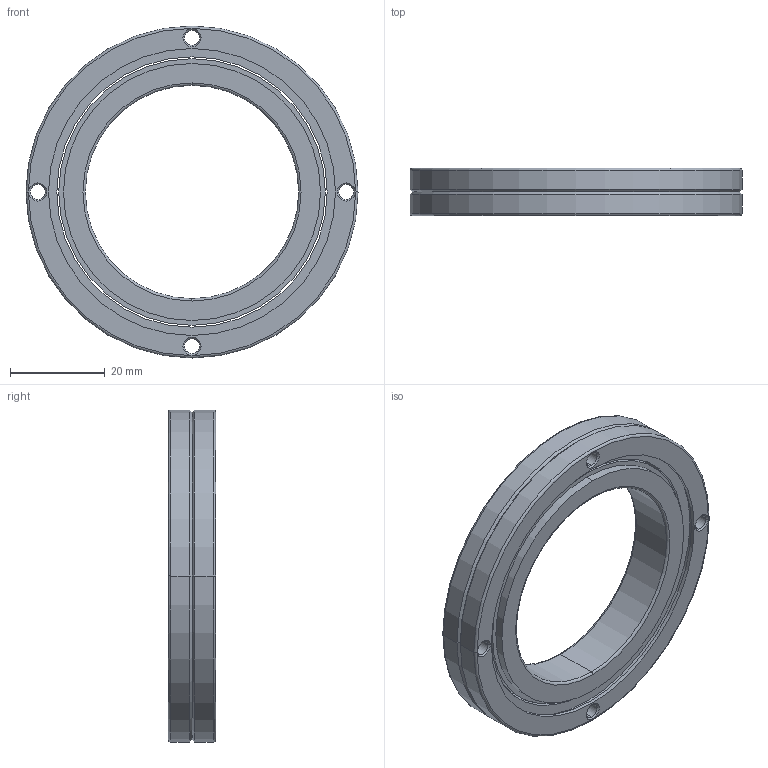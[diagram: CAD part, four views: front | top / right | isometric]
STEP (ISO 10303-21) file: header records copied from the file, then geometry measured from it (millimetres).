
FILE_DESCRIPTION((''),'2;1');
FILE_NAME('RB4510','2014-12-13T',('Administrator'),(''),'PRO/ENGINEER BY PARAMETRIC TECHNOLOGY CORPORATION, 2010180','PRO/ENGINEER BY PARAMETRIC TECHNOLOGY CORPORATION, 2010180','');
FILE_SCHEMA(('AUTOMOTIVE_DESIGN_CC2 { 1 2 10303 214 -1 1 5 2 }'));
Length unit declared in the file: millimetre
Products named in the file (1): RB4510
Bounding box: 70 x 10 x 70 mm (x, y, z)
Volume: 18205.7 mm3; surface area: 12797.7 mm2
Topology: 2 solids, 2 shells, 80 faces, 168 edges, 98 vertices
Faces by surface type: cylinder 34, cone 28, plane 10, torus 8
Entity records: 2257 total; most frequent: DIRECTION 434, CARTESIAN_POINT 346, ORIENTED_EDGE 336, AXIS2_PLACEMENT_3D 186, EDGE_CURVE 168, CIRCLE 106, VERTEX_POINT 98, EDGE_LOOP 98
